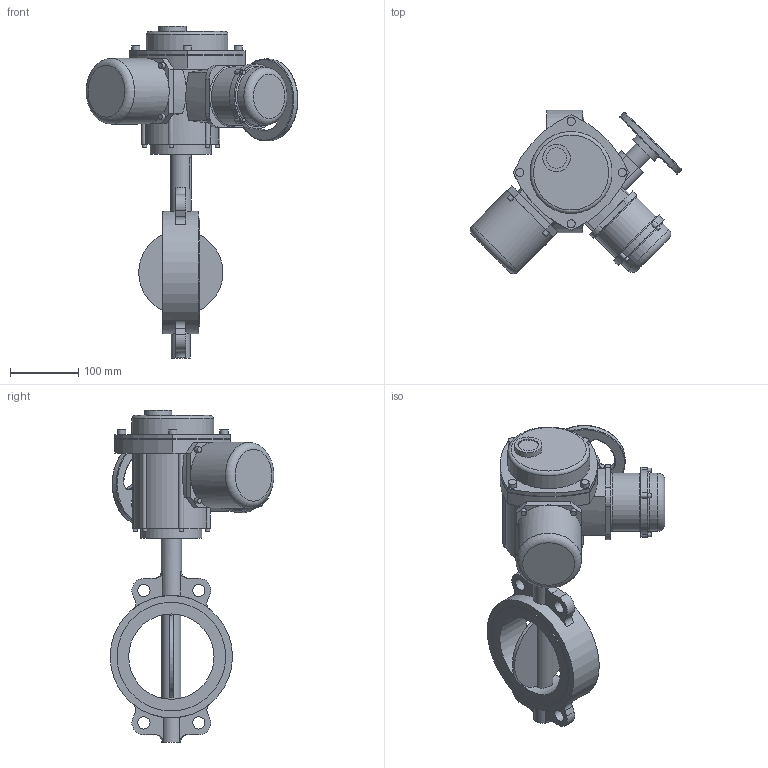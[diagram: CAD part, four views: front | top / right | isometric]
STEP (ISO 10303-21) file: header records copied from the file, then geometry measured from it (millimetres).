
FILE_DESCRIPTION(('STEP AP203'), '1');
FILE_NAME('青蜮铕 017W.Y_DN125_QT.Z 10', '', ('UNSPECIFIED'), ('UNSPECIFIED'), 'ASCON STEP Converter 1.6', 'ASCON Math Kernel', '');
FILE_SCHEMA(('CONFIG_CONTROL_DESIGN'));
Length unit declared in the file: millimetre
Bounding box: 310.08 x 239.48 x 486 mm (x, y, z)
Volume: 4603067.8 mm3; surface area: 386335.1 mm2
Topology: 1 solids, 1 shells, 304 faces, 713 edges, 452 vertices
Faces by surface type: cylinder 139, plane 117, torus 40, cone 8
Full cylindrical faces by diameter (mm): 6 x10, 6.647 x4, 8 x4, 10 x4, 12 x4, 12.386 x1, 18 x4, 28 x2, 30 x3, 40 x1, 45 x1, 85 x2, 90 x1, 96 x1, 120 x2, 125 x1, 159 x2, 179 x1
Entity records: 13250 total; most frequent: CARTESIAN_POINT 3814, DIRECTION 1572, ORIENTED_EDGE 1286, AXIS2_PLACEMENT_3D 668, EDGE_CURVE 643, VERTEX_POINT 447, EDGE_LOOP 431, CIRCLE 363
